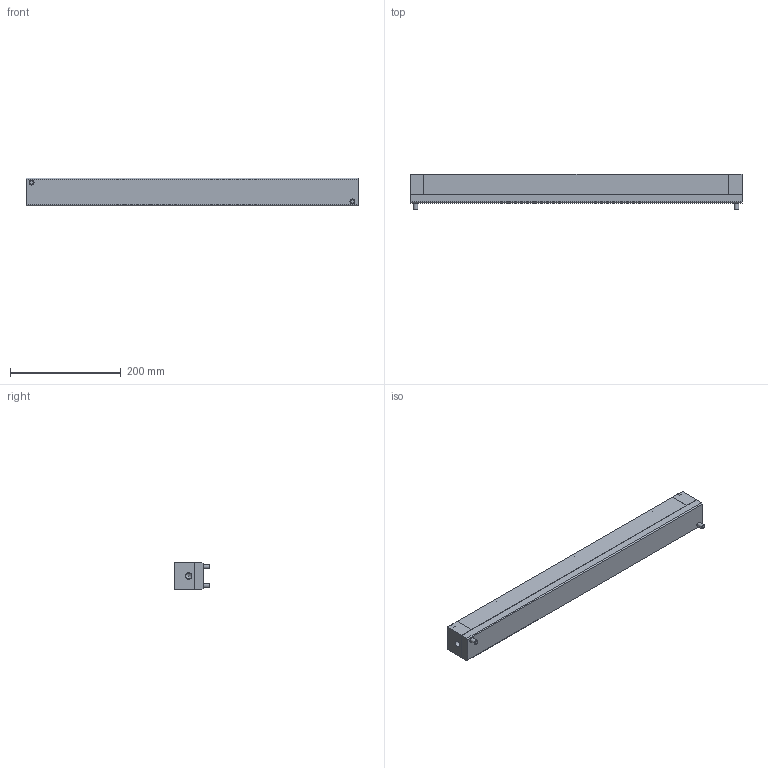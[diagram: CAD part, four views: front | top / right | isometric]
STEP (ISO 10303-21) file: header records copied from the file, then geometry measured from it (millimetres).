
FILE_DESCRIPTION( ( 'STEP AP214' ), '1' );
FILE_NAME( 'Z:/01-DesignData/標準品図面/★Web／カタログ用データ(型式別 3点Set)/070-ISR50D 系/ISR-50D-600-A_0_.stp', '2022-05-10T00:31:19', ( 'License CC BY-ND 4.0' ), ( 'CADENAS' ), ' ', 'PARTsolutions', ' ' );
FILE_SCHEMA( ( 'AUTOMOTIVE_DESIGN { 1 0 10303 214 1 1 1 1 }' ) );
Length unit declared in the file: millimetre
Products named in the file (5): ISR-50D-600-A(0); _ISR-50D-600-A-Body; _ISR-50D-600-A-Box; _ISR-50D-600-A(0)-Ball; _ISR-50D-600-A-screw
Assembly tree (15 placements, depth 2):
  ISR-50D-600-A(0)
    _ISR-50D-600-A-Body
    _ISR-50D-600-A-Box
    _ISR-50D-600-A(0)-Ball  x11
    _ISR-50D-600-A-screw  x2
Bounding box: 600 x 64 x 49.5 mm (x, y, z)
Volume: 1454053.8 mm3; surface area: 330029.9 mm2
Topology: 15 solids, 15 shells, 689 faces, 1448 edges, 896 vertices
Faces by surface type: plane 489, cylinder 111, cone 52, torus 26, sphere 11
Full cylindrical faces by diameter (mm): 8 x2, 8.5 x22, 9 x2, 9.5 x22, 13 x4, 14.5 x4, 33 x11, 38.5 x11, 39 x11, 42 x22
Entity records: 18660 total; most frequent: DIRECTION 2526, CARTESIAN_POINT 2334, ORIENTED_EDGE 2072, EDGE_CURVE 1036, AXIS2_PLACEMENT_3D 915, EDGE_LOOP 774, VERTEX_POINT 723, LINE 696
